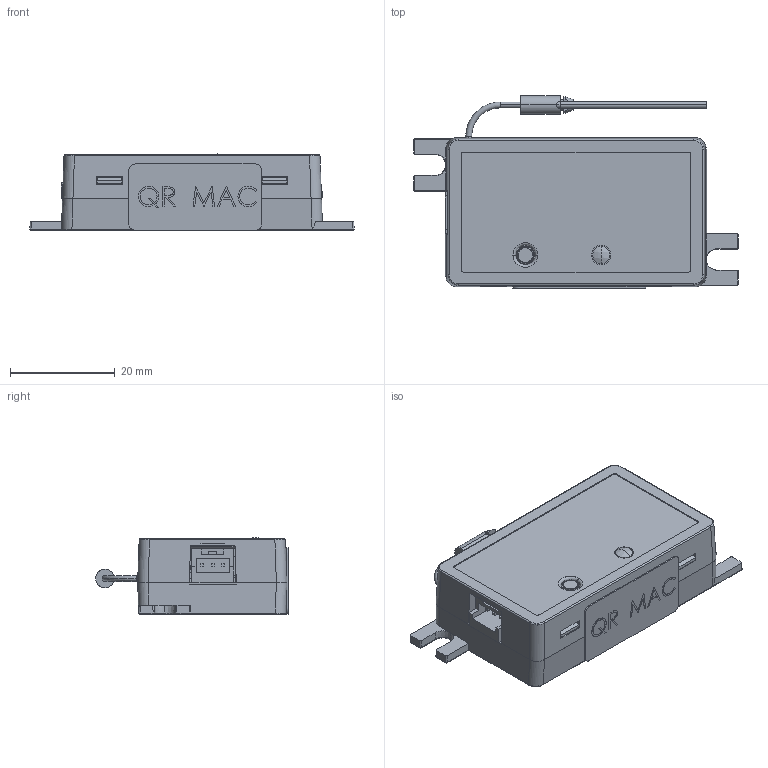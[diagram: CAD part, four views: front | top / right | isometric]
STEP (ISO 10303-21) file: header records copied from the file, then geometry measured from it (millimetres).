
FILE_DESCRIPTION (( 'STEP AP214' ), '1' );
FILE_NAME ('ORB9535-M01 Nov 11.STEP', '2022-11-11T17:14:31', ( '' ), ( '' ), 'SwSTEP 2.0', 'SolidWorks 2020', '' );
FILE_SCHEMA (( 'AUTOMOTIVE_DESIGN' ));
Length unit declared in the file: millimetre
Products named in the file (11): BAB9533-M11; BAB9533-M11_BAB9533-M02; ORB9535-M01 Nov 11; OXC1025-M01; ORB5446-M01 QR-MAC; OXC1015-M05; OXB9285-M05; OXC0875-M01; OXB7217-M01; OG62562-M02-REF-MM-REV-10; BAB9534-M11
Assembly tree (11 placements, depth 2):
  ORB9535-M01 Nov 11
    BAB9534-M11
    BAB9533-M11_BAB9533-M02
    BAB9533-M11
    OG62562-M02-REF-MM-REV-10  x2
    OXB7217-M01
    OXB9285-M05
    ORB5446-M01 QR-MAC
    OXC0875-M01
    OXC1015-M05
    OXC1025-M01
Bounding box: 61.98 x 36.77 x 14.68 mm (x, y, z)
Volume: 15759.4 mm3; surface area: 23566.2 mm2
Topology: 147 solids, 150 shells, 3960 faces, 10582 edges, 6963 vertices
Faces by surface type: plane 2368, cylinder 1300, cone 149, bspline 76, torus 59, sphere 8
Entity records: 165585 total; most frequent: CARTESIAN_POINT 30638, ORIENTED_EDGE 20702, DIRECTION 19546, EDGE_CURVE 10370, LINE 6918, VECTOR 6918, VERTEX_POINT 6826, AXIS2_PLACEMENT_3D 6314
